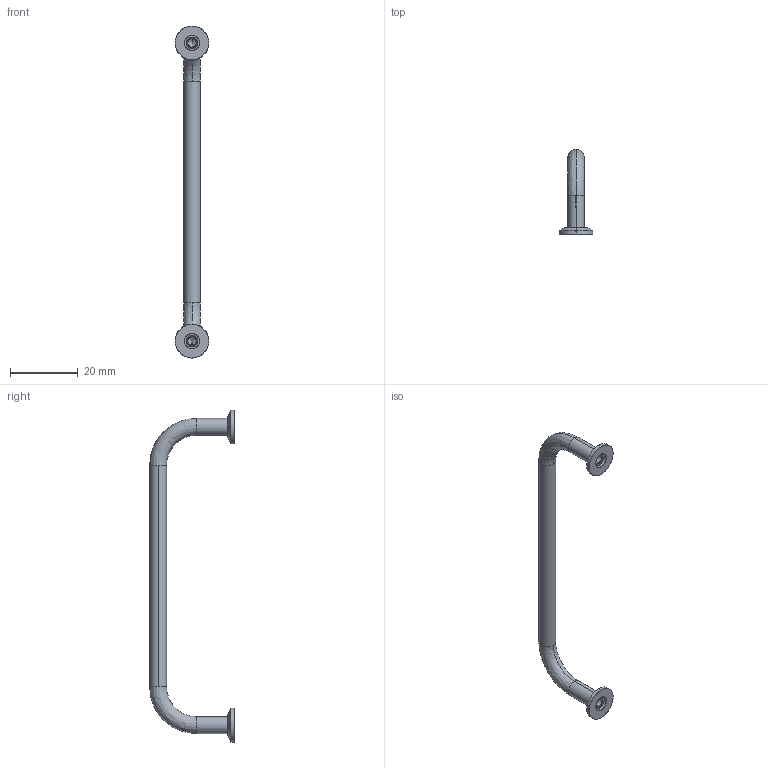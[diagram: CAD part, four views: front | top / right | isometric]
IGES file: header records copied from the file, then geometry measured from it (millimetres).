
Start section: SolidWorks IGES file using analytic representation for surfaces
Global section: file name: C:\Documents and Settings\IANO\Desktop\Temp File\Process pending\PCN pending\78700_v2\78700_v2_20170116_IGES\78700.W0008.igs; native system: SolidWorks 2009; preprocessor: SolidWorks 2009; author: IANO; date: 170310.095558; units: millimetre
Bounding box: 10 x 25 x 98 mm (x, y, z)
Surface area: 2430.8 mm2 (no closed solid volume)
Topology: 0 solids, 0 shells, 52 faces, 816 edges, 812 vertices
Faces by surface type: revolution 38, bspline 14
